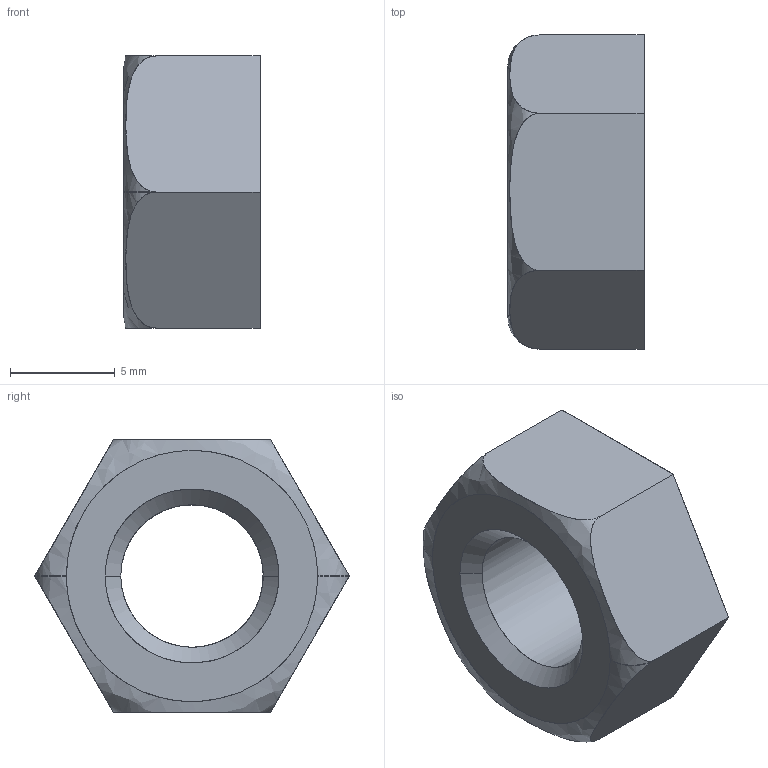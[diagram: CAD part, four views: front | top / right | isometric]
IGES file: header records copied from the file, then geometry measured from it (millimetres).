
Start section: JAMA-IS VERSION  1.0
Global section: file name: E:\tools-models\その他メーカー2\INOAC車輪\7月\HP-100WJ\HP-100WJ-17.igs; native system: CAM-TOOL; preprocessor: C3out Version 11.1.1.50212 (2015/02/12); author: NONE; organization: NONE; date: 200704.165039; units: millimetre
Bounding box: 6.5 x 15.01 x 13 mm (x, y, z)
Surface area: 632.1 mm2 (no closed solid volume)
Topology: 0 solids, 0 shells, 13 faces, 278 edges, 277 vertices
Faces by surface type: bspline 13
